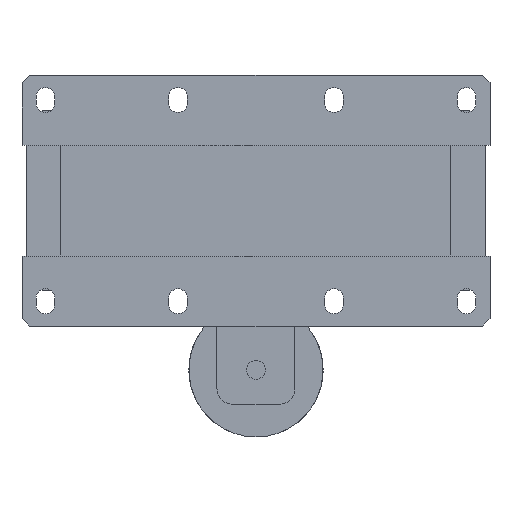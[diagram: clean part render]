
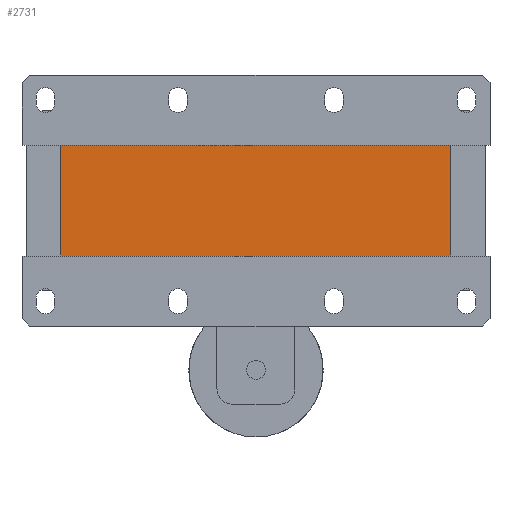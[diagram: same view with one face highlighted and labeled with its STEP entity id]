
A CAD part, front view. The second image highlights one B-rep face of the part: STEP entity #2731.
In plain terms, the highlighted planar face has unit normal (0, -1, 0).
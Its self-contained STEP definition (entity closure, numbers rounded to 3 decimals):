
#232=FACE_OUTER_BOUND('',#403,.T.);
#403=EDGE_LOOP('',(#2101,#2102,#2103,#2104));
#624=LINE('',#4197,#935);
#628=LINE('',#4205,#939);
#631=LINE('',#4211,#942);
#634=LINE('',#4216,#945);
#935=VECTOR('',#3398,10.);
#939=VECTOR('',#3404,10.);
#942=VECTOR('',#3409,10.);
#945=VECTOR('',#3414,10.);
#1226=VERTEX_POINT('',#4195);
#1227=VERTEX_POINT('',#4196);
#1230=VERTEX_POINT('',#4204);
#1232=VERTEX_POINT('',#4210);
#1538=EDGE_CURVE('',#1226,#1227,#624,.T.);
#1542=EDGE_CURVE('',#1227,#1230,#628,.T.);
#1545=EDGE_CURVE('',#1230,#1232,#631,.T.);
#1548=EDGE_CURVE('',#1232,#1226,#634,.T.);
#2101=ORIENTED_EDGE('',*,*,#1548,.T.);
#2102=ORIENTED_EDGE('',*,*,#1538,.T.);
#2103=ORIENTED_EDGE('',*,*,#1542,.T.);
#2104=ORIENTED_EDGE('',*,*,#1545,.T.);
#2599=PLANE('',#2951);
#2731=ADVANCED_FACE('',(#232),#2599,.T.);
#2951=AXIS2_PLACEMENT_3D('',#4218,#3416,#3417);
#3398=DIRECTION('',(0.,0.,1.));
#3404=DIRECTION('',(-1.,0.,0.));
#3409=DIRECTION('',(0.,0.,-1.));
#3414=DIRECTION('',(1.,0.,0.));
#3416=DIRECTION('center_axis',(0.,-1.,0.));
#3417=DIRECTION('ref_axis',(0.,0.,-1.));
#4195=CARTESIAN_POINT('',(125.,2.,-35.5));
#4196=CARTESIAN_POINT('',(125.,2.,35.5));
#4197=CARTESIAN_POINT('',(125.,2.,-35.5));
#4204=CARTESIAN_POINT('',(-125.,2.,35.5));
#4205=CARTESIAN_POINT('',(125.,2.,35.5));
#4210=CARTESIAN_POINT('',(-125.,2.,-35.5));
#4211=CARTESIAN_POINT('',(-125.,2.,35.5));
#4216=CARTESIAN_POINT('',(-125.,2.,-35.5));
#4218=CARTESIAN_POINT('Origin',(0.,2.,0.));
